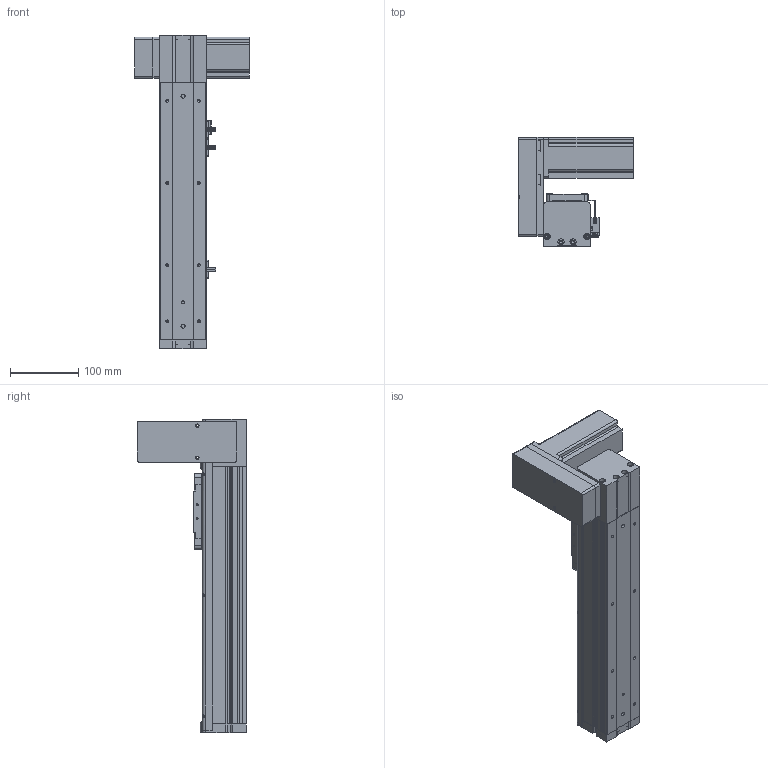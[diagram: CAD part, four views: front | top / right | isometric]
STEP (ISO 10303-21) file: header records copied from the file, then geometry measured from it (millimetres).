
FILE_DESCRIPTION (( 'STEP AP214' ), '1' );
FILE_NAME ('KSD68BS-S200-MRU-CR.STEP', '2019-08-28T05:57:19', ( '微软用户' ), ( '微软中国' ), 'SwSTEP 2.0', 'SolidWorks 2014', '' );
FILE_SCHEMA (( 'AUTOMOTIVE_DESIGN' ));
Length unit declared in the file: millimetre
Products named in the file (14): 68宽单导轨全封闭同步带端板; 68单导轨全封闭同步带电机座右; 68单导轨全封闭同步带安装板; 悵誘欶奻狟殏; 68宽马达安装板连板上折同步带; 感应片68宽全封闭; U倰嫖萇EEㄜSX672; 台达ECMA－C20604AS伺服电机（400W); KSD68BS 200行程底板全封闭; KSD68BS-S200-MRU-CR; KSD68BS 200行程盖板全封闭; 68遵裔啣揤啣1; 68宽单导轨全封闭丝杆传动安装板1防护罩; KSD68BS 200行程侧板全封闭
Assembly tree (17 placements, depth 2):
  KSD68BS-S200-MRU-CR
    KSD68BS 200行程底板全封闭
    台达ECMA－C20604AS伺服电机（400W)
    U倰嫖萇EEㄜSX672  x3
    感应片68宽全封闭
    68宽马达安装板连板上折同步带
    悵誘欶奻狟殏
    68单导轨全封闭同步带安装板
    68单导轨全封闭同步带电机座右
    68宽单导轨全封闭同步带端板
    KSD68BS 200行程侧板全封闭  x2
    68宽单导轨全封闭丝杆传动安装板1防护罩
    68遵裔啣揤啣1  x2
    KSD68BS 200行程盖板全封闭
Bounding box: 167.2 x 159.5 x 458.1 mm (x, y, z)
Volume: 1460357.2 mm3; surface area: 462869 mm2
Topology: 18 solids, 18 shells, 1346 faces, 3771 edges, 2427 vertices
Faces by surface type: plane 623, cylinder 595, cone 128
Entity records: 41082 total; most frequent: CARTESIAN_POINT 6853, DIRECTION 6243, ORIENTED_EDGE 5986, EDGE_CURVE 2993, AXIS2_PLACEMENT_3D 2207, VERTEX_POINT 1965, LINE 1829, VECTOR 1829
